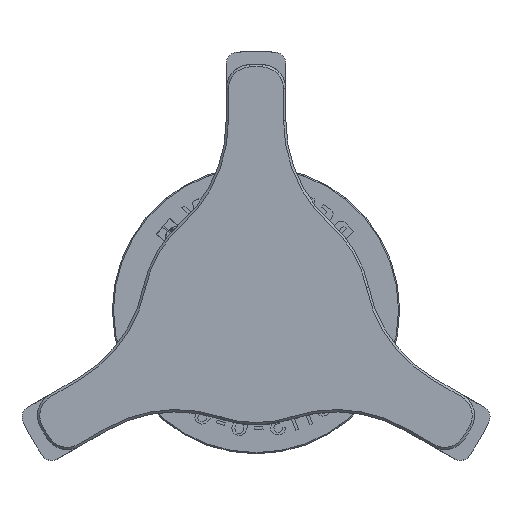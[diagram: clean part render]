
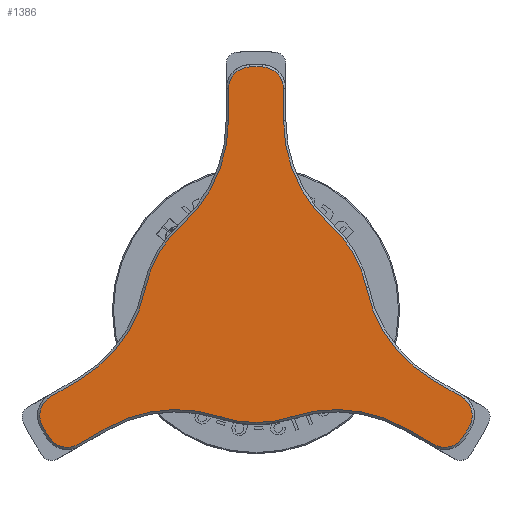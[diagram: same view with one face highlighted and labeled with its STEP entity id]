
A CAD part, top view. The second image highlights one B-rep face of the part: STEP entity #1386.
In plain terms, the highlighted planar face has unit normal (0, 0, 1).
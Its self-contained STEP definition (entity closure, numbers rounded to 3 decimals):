
#1181=PLANE('',#4291);
#1386=ADVANCED_FACE('',(#1597),#1181,.T.);
#1597=FACE_OUTER_BOUND('',#1708,.T.);
#1708=EDGE_LOOP('',(#2349,#2350,#2351,#2352,#2353,#2354,#2355,#2356,#2357,
#2358,#2359,#2360,#2361,#2362,#2363,#2364,#2365,#2366,#2367,#2368,#2369,
#2370,#2371,#2372));
#1966=CIRCLE('',#4273,1.9);
#1967=CIRCLE('',#4274,21.15);
#1968=CIRCLE('',#4275,1.9);
#1969=CIRCLE('',#4276,12.2);
#1970=CIRCLE('',#4277,9.8);
#1971=CIRCLE('',#4278,12.2);
#1972=CIRCLE('',#4279,1.9);
#1973=CIRCLE('',#4280,21.15);
#1974=CIRCLE('',#4281,1.9);
#1975=CIRCLE('',#4282,12.2);
#1976=CIRCLE('',#4283,9.8);
#1977=CIRCLE('',#4284,12.2);
#1978=CIRCLE('',#4285,1.9);
#1979=CIRCLE('',#4286,21.15);
#1980=CIRCLE('',#4287,1.9);
#1981=CIRCLE('',#4288,12.2);
#1982=CIRCLE('',#4289,9.8);
#1983=CIRCLE('',#4290,12.2);
#2349=ORIENTED_EDGE('',*,*,#3628,.T.);
#2350=ORIENTED_EDGE('',*,*,#3629,.T.);
#2351=ORIENTED_EDGE('',*,*,#3630,.T.);
#2352=ORIENTED_EDGE('',*,*,#3631,.T.);
#2353=ORIENTED_EDGE('',*,*,#3632,.T.);
#2354=ORIENTED_EDGE('',*,*,#3633,.T.);
#2355=ORIENTED_EDGE('',*,*,#3634,.T.);
#2356=ORIENTED_EDGE('',*,*,#3635,.T.);
#2357=ORIENTED_EDGE('',*,*,#3636,.T.);
#2358=ORIENTED_EDGE('',*,*,#3637,.T.);
#2359=ORIENTED_EDGE('',*,*,#3638,.T.);
#2360=ORIENTED_EDGE('',*,*,#3639,.T.);
#2361=ORIENTED_EDGE('',*,*,#3640,.T.);
#2362=ORIENTED_EDGE('',*,*,#3641,.T.);
#2363=ORIENTED_EDGE('',*,*,#3642,.T.);
#2364=ORIENTED_EDGE('',*,*,#3643,.T.);
#2365=ORIENTED_EDGE('',*,*,#3644,.T.);
#2366=ORIENTED_EDGE('',*,*,#3645,.T.);
#2367=ORIENTED_EDGE('',*,*,#3646,.T.);
#2368=ORIENTED_EDGE('',*,*,#3647,.T.);
#2369=ORIENTED_EDGE('',*,*,#3648,.T.);
#2370=ORIENTED_EDGE('',*,*,#3649,.T.);
#2371=ORIENTED_EDGE('',*,*,#3650,.T.);
#2372=ORIENTED_EDGE('',*,*,#3651,.T.);
#3247=VERTEX_POINT('',#5384);
#3248=VERTEX_POINT('',#5385);
#3249=VERTEX_POINT('',#5387);
#3250=VERTEX_POINT('',#5389);
#3251=VERTEX_POINT('',#5391);
#3252=VERTEX_POINT('',#5393);
#3253=VERTEX_POINT('',#5395);
#3254=VERTEX_POINT('',#5397);
#3255=VERTEX_POINT('',#5399);
#3256=VERTEX_POINT('',#5401);
#3257=VERTEX_POINT('',#5403);
#3258=VERTEX_POINT('',#5405);
#3259=VERTEX_POINT('',#5407);
#3260=VERTEX_POINT('',#5409);
#3261=VERTEX_POINT('',#5411);
#3262=VERTEX_POINT('',#5413);
#3263=VERTEX_POINT('',#5415);
#3264=VERTEX_POINT('',#5417);
#3265=VERTEX_POINT('',#5419);
#3266=VERTEX_POINT('',#5421);
#3267=VERTEX_POINT('',#5423);
#3268=VERTEX_POINT('',#5425);
#3269=VERTEX_POINT('',#5427);
#3270=VERTEX_POINT('',#5429);
#3628=EDGE_CURVE('',#3247,#3248,#4042,.T.);
#3629=EDGE_CURVE('',#3248,#3249,#1966,.T.);
#3630=EDGE_CURVE('',#3249,#3250,#1967,.T.);
#3631=EDGE_CURVE('',#3250,#3251,#1968,.T.);
#3632=EDGE_CURVE('',#3251,#3252,#4043,.T.);
#3633=EDGE_CURVE('',#3252,#3253,#1969,.T.);
#3634=EDGE_CURVE('',#3253,#3254,#1970,.T.);
#3635=EDGE_CURVE('',#3254,#3255,#1971,.T.);
#3636=EDGE_CURVE('',#3255,#3256,#4044,.T.);
#3637=EDGE_CURVE('',#3256,#3257,#1972,.T.);
#3638=EDGE_CURVE('',#3257,#3258,#1973,.T.);
#3639=EDGE_CURVE('',#3258,#3259,#1974,.T.);
#3640=EDGE_CURVE('',#3259,#3260,#4045,.T.);
#3641=EDGE_CURVE('',#3260,#3261,#1975,.T.);
#3642=EDGE_CURVE('',#3261,#3262,#1976,.T.);
#3643=EDGE_CURVE('',#3262,#3263,#1977,.T.);
#3644=EDGE_CURVE('',#3263,#3264,#4046,.T.);
#3645=EDGE_CURVE('',#3264,#3265,#1978,.T.);
#3646=EDGE_CURVE('',#3265,#3266,#1979,.T.);
#3647=EDGE_CURVE('',#3266,#3267,#1980,.T.);
#3648=EDGE_CURVE('',#3267,#3268,#4047,.T.);
#3649=EDGE_CURVE('',#3268,#3269,#1981,.T.);
#3650=EDGE_CURVE('',#3269,#3270,#1982,.T.);
#3651=EDGE_CURVE('',#3270,#3247,#1983,.T.);
#4042=LINE('',#5383,#4149);
#4043=LINE('',#5392,#4150);
#4044=LINE('',#5400,#4151);
#4045=LINE('',#5408,#4152);
#4046=LINE('',#5416,#4153);
#4047=LINE('',#5424,#4154);
#4149=VECTOR('',#4623,1.);
#4150=VECTOR('',#4630,1.);
#4151=VECTOR('',#4637,1.);
#4152=VECTOR('',#4644,1.);
#4153=VECTOR('',#4651,1.);
#4154=VECTOR('',#4658,1.);
#4273=AXIS2_PLACEMENT_3D('',#5386,#4624,#4625);
#4274=AXIS2_PLACEMENT_3D('',#5388,#4626,#4627);
#4275=AXIS2_PLACEMENT_3D('',#5390,#4628,#4629);
#4276=AXIS2_PLACEMENT_3D('',#5394,#4631,#4632);
#4277=AXIS2_PLACEMENT_3D('',#5396,#4633,#4634);
#4278=AXIS2_PLACEMENT_3D('',#5398,#4635,#4636);
#4279=AXIS2_PLACEMENT_3D('',#5402,#4638,#4639);
#4280=AXIS2_PLACEMENT_3D('',#5404,#4640,#4641);
#4281=AXIS2_PLACEMENT_3D('',#5406,#4642,#4643);
#4282=AXIS2_PLACEMENT_3D('',#5410,#4645,#4646);
#4283=AXIS2_PLACEMENT_3D('',#5412,#4647,#4648);
#4284=AXIS2_PLACEMENT_3D('',#5414,#4649,#4650);
#4285=AXIS2_PLACEMENT_3D('',#5418,#4652,#4653);
#4286=AXIS2_PLACEMENT_3D('',#5420,#4654,#4655);
#4287=AXIS2_PLACEMENT_3D('',#5422,#4656,#4657);
#4288=AXIS2_PLACEMENT_3D('',#5426,#4659,#4660);
#4289=AXIS2_PLACEMENT_3D('',#5428,#4661,#4662);
#4290=AXIS2_PLACEMENT_3D('',#5430,#4663,#4664);
#4291=AXIS2_PLACEMENT_3D('',#5431,#4665,#4666);
#4623=DIRECTION('',(-0.866,-0.5,0.));
#4624=DIRECTION('',(0.,0.,1.));
#4625=DIRECTION('',(0.,-1.,0.));
#4626=DIRECTION('',(0.,0.,1.));
#4627=DIRECTION('',(0.,-1.,0.));
#4628=DIRECTION('',(0.,0.,1.));
#4629=DIRECTION('',(0.,-1.,0.));
#4630=DIRECTION('',(0.866,0.5,0.));
#4631=DIRECTION('',(0.,0.,-1.));
#4632=DIRECTION('',(0.,-1.,0.));
#4633=DIRECTION('',(0.,0.,1.));
#4634=DIRECTION('',(0.,-1.,0.));
#4635=DIRECTION('',(0.,0.,-1.));
#4636=DIRECTION('',(0.,-1.,0.));
#4637=DIRECTION('',(0.866,-0.5,0.));
#4638=DIRECTION('',(0.,0.,1.));
#4639=DIRECTION('',(0.,-1.,0.));
#4640=DIRECTION('',(0.,0.,1.));
#4641=DIRECTION('',(0.,-1.,0.));
#4642=DIRECTION('',(0.,0.,1.));
#4643=DIRECTION('',(0.,-1.,0.));
#4644=DIRECTION('',(-0.866,0.5,0.));
#4645=DIRECTION('',(0.,0.,-1.));
#4646=DIRECTION('',(0.,-1.,0.));
#4647=DIRECTION('',(0.,0.,1.));
#4648=DIRECTION('',(0.,-1.,0.));
#4649=DIRECTION('',(0.,0.,-1.));
#4650=DIRECTION('',(0.,-1.,0.));
#4651=DIRECTION('',(0.,1.,0.));
#4652=DIRECTION('',(0.,0.,1.));
#4653=DIRECTION('',(0.,-1.,0.));
#4654=DIRECTION('',(0.,0.,1.));
#4655=DIRECTION('',(0.,-1.,0.));
#4656=DIRECTION('',(0.,0.,1.));
#4657=DIRECTION('',(0.,-1.,0.));
#4658=DIRECTION('',(0.,-1.,0.));
#4659=DIRECTION('',(0.,0.,-1.));
#4660=DIRECTION('',(0.,-1.,0.));
#4661=DIRECTION('',(0.,0.,1.));
#4662=DIRECTION('',(0.,-1.,0.));
#4663=DIRECTION('',(0.,0.,-1.));
#4664=DIRECTION('',(0.,-1.,0.));
#4665=DIRECTION('',(0.,0.,1.));
#4666=DIRECTION('',(0.,-1.,0.));
#5383=CARTESIAN_POINT('',(-17.865,-7.543,0.3));
#5384=CARTESIAN_POINT('',(-15.452,-6.15,0.3));
#5385=CARTESIAN_POINT('',(-17.865,-7.543,0.3));
#5386=CARTESIAN_POINT('',(-16.915,-9.189,0.3));
#5387=CARTESIAN_POINT('',(-18.585,-10.096,0.3));
#5388=CARTESIAN_POINT('',(0.,0.,0.3));
#5389=CARTESIAN_POINT('',(-18.036,-11.047,0.3));
#5390=CARTESIAN_POINT('',(-16.415,-10.055,0.3));
#5391=CARTESIAN_POINT('',(-15.465,-11.7,0.3));
#5392=CARTESIAN_POINT('',(1.2,-2.078,0.3));
#5393=CARTESIAN_POINT('',(-13.052,-10.307,0.3));
#5394=CARTESIAN_POINT('',(-6.952,-20.873,0.3));
#5395=CARTESIAN_POINT('',(-3.097,-9.298,0.3));
#5396=CARTESIAN_POINT('',(0.,0.,0.3));
#5397=CARTESIAN_POINT('',(3.097,-9.298,0.3));
#5398=CARTESIAN_POINT('',(6.952,-20.873,0.3));
#5399=CARTESIAN_POINT('',(13.052,-10.307,0.3));
#5400=CARTESIAN_POINT('',(-1.2,-2.078,0.3));
#5401=CARTESIAN_POINT('',(15.465,-11.7,0.3));
#5402=CARTESIAN_POINT('',(16.415,-10.055,0.3));
#5403=CARTESIAN_POINT('',(18.036,-11.047,0.3));
#5404=CARTESIAN_POINT('',(0.,0.,0.3));
#5405=CARTESIAN_POINT('',(18.585,-10.096,0.3));
#5406=CARTESIAN_POINT('',(16.915,-9.189,0.3));
#5407=CARTESIAN_POINT('',(17.865,-7.543,0.3));
#5408=CARTESIAN_POINT('',(15.452,-6.15,0.3));
#5409=CARTESIAN_POINT('',(15.452,-6.15,0.3));
#5410=CARTESIAN_POINT('',(21.552,4.415,0.3));
#5411=CARTESIAN_POINT('',(9.601,1.967,0.3));
#5412=CARTESIAN_POINT('',(0.,0.,0.3));
#5413=CARTESIAN_POINT('',(6.504,7.331,0.3));
#5414=CARTESIAN_POINT('',(14.6,16.457,0.3));
#5415=CARTESIAN_POINT('',(2.4,16.457,0.3));
#5416=CARTESIAN_POINT('',(2.4,19.244,0.3));
#5417=CARTESIAN_POINT('',(2.4,19.244,0.3));
#5418=CARTESIAN_POINT('',(0.5,19.244,0.3));
#5419=CARTESIAN_POINT('',(0.549,21.143,0.3));
#5420=CARTESIAN_POINT('',(0.,0.,0.3));
#5421=CARTESIAN_POINT('',(-0.549,21.143,0.3));
#5422=CARTESIAN_POINT('',(-0.5,19.244,0.3));
#5423=CARTESIAN_POINT('',(-2.4,19.244,0.3));
#5424=CARTESIAN_POINT('',(-2.4,16.457,0.3));
#5425=CARTESIAN_POINT('',(-2.4,16.457,0.3));
#5426=CARTESIAN_POINT('',(-14.6,16.457,0.3));
#5427=CARTESIAN_POINT('',(-6.504,7.331,0.3));
#5428=CARTESIAN_POINT('',(0.,0.,0.3));
#5429=CARTESIAN_POINT('',(-9.601,1.967,0.3));
#5430=CARTESIAN_POINT('',(-21.552,4.415,0.3));
#5431=CARTESIAN_POINT('',(0.,0.,0.3));
